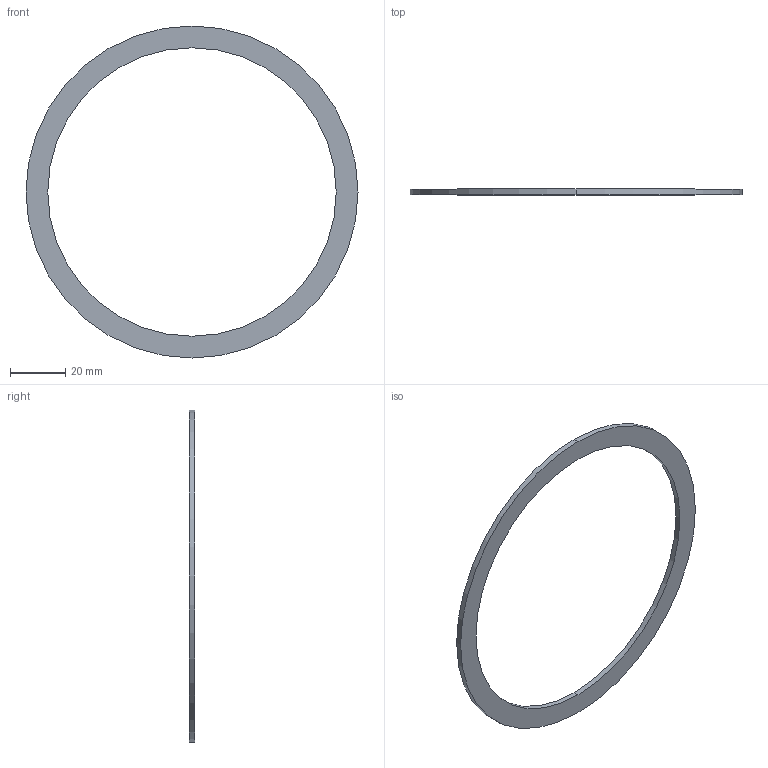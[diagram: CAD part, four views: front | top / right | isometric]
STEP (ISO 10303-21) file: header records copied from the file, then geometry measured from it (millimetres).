
FILE_DESCRIPTION (( 'STEP AP203' ), '1' );
FILE_NAME ('200851.stp', '2019-02-05T18:41:04', ( '' ), ( '' ), 'SwSTEP 2.0', 'SolidWorks 2012', '' );
FILE_SCHEMA (( 'CONFIG_CONTROL_DESIGN' ));
Length unit declared in the file: centimetre
Products named in the file (1): 200851
Bounding box: 120.47 x 2.03 x 120.47 mm (x, y, z)
Volume: 5685.3 mm3; surface area: 7032.8 mm2
Topology: 1 solids, 1 shells, 6 faces, 12 edges, 8 vertices
Faces by surface type: cylinder 4, plane 2
Entity records: 245 total; most frequent: DIRECTION 34, CARTESIAN_POINT 27, ORIENTED_EDGE 24, AXIS2_PLACEMENT_3D 15, EDGE_CURVE 12, EDGE_LOOP 8, PERSON_AND_ORGANIZATION 8, CIRCLE 8
